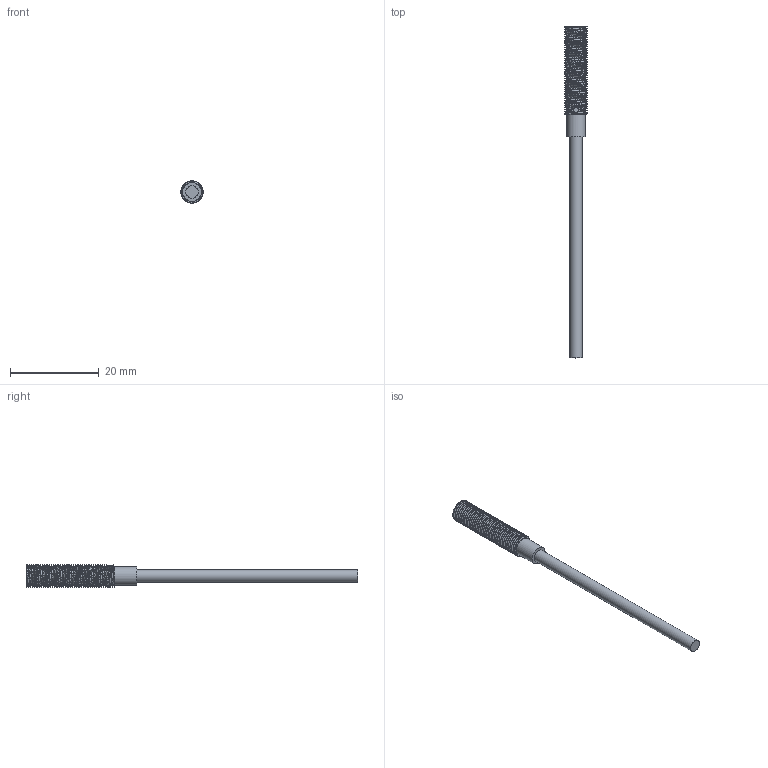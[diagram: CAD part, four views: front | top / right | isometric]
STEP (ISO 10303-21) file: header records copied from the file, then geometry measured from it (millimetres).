
FILE_DESCRIPTION(/* description */ (''),/* implementation_level */ '2;1');
FILE_NAME(/* name */ 'F:\HUAYIFENG\01)HUAYIFENG_宣传文件\01)HUAYIFENG_\X2\5BA34F2065874EF6\X0\_产品资料整合\03)产品3D文档\04)产品3D_接近系列_K12_2019\超小圆柱型接近传感器\PDE_PDET05.stp',/* time_stamp */ '2019-07-24T16:46:30+08:00',/* author */ ('fengjiarun'),/* organization */ (''),/* preprocessor_version */ 'ST-DEVELOPER v16.5',/* originating_system */ 'Autodesk Inventor 2017',/* authorisation */ '');
FILE_SCHEMA (('AUTOMOTIVE_DESIGN { 1 0 10303 214 3 1 1 }'));
Length unit declared in the file: millimetre
Products named in the file (1): PDE_PDET05
Bounding box: 5 x 75 x 5 mm (x, y, z)
Volume: 722.1 mm3; surface area: 1617 mm2
Topology: 2 solids, 2 shells, 38 faces, 101 edges, 67 vertices
Faces by surface type: bspline 20, cylinder 9, plane 8, torus 1
Full cylindrical faces by diameter (mm): 1.2 x2, 2.8 x1, 4.15 x1, 4.259 x2
Entity records: 16764 total; most frequent: CARTESIAN_POINT 16044, ORIENTED_EDGE 170, EDGE_CURVE 85, DIRECTION 72, B_SPLINE_CURVE_WITH_KNOTS 68, VERTEX_POINT 61, EDGE_LOOP 52, FACE_OUTER_BOUND 38
